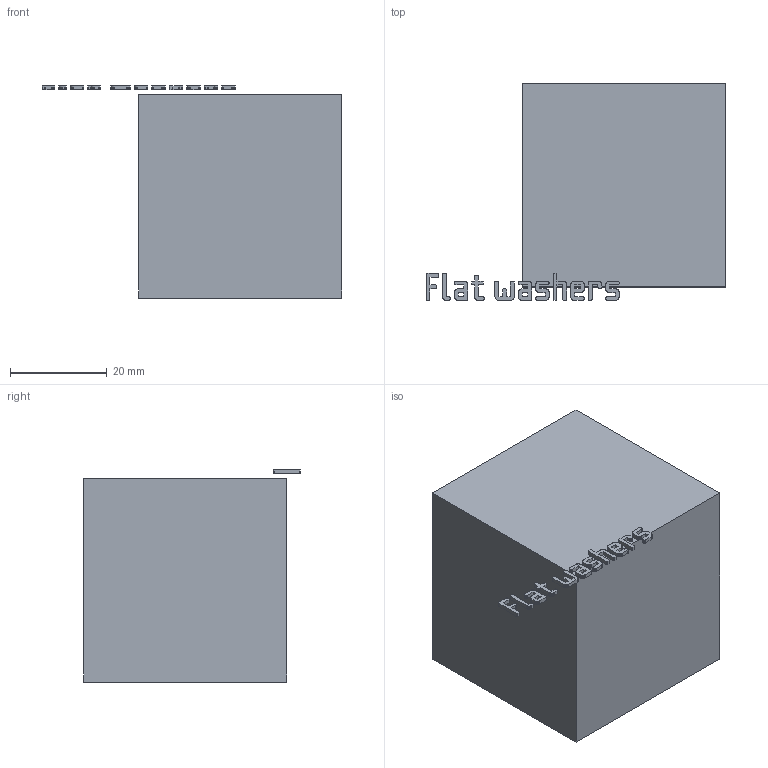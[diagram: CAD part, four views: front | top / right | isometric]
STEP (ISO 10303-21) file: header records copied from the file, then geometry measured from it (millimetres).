
FILE_DESCRIPTION(('Open CASCADE Model'),'2;1');
FILE_NAME('Open CASCADE Shape Model','2026-11-03T16:04:00',('Author'),( 'Open CASCADE'),'Open CASCADE STEP processor 8.0','build123d', 'Unknown');
FILE_SCHEMA(('AUTOMOTIVE_DESIGN { 1 0 10303 214 1 1 1 1 }'));
Products named in the file (1): COMPOUND
Bounding box: 61.96 x 44.8 x 43.8 mm (x, y, z)
Volume: 19279.9 mm3; surface area: 19574.8 mm2
Topology: 12 solids, 13 shells, 996 faces, 2910 edges, 1940 vertices
Faces by surface type: plane 996
Entity records: 70094 total; most frequent: CARTESIAN_POINT 11675, DIRECTION 10716, LINE 8722, VECTOR 8722, ORIENTED_EDGE 5820, PCURVE 5820, DEFINITIONAL_REPRESENTATION 5820, EDGE_CURVE 2910
